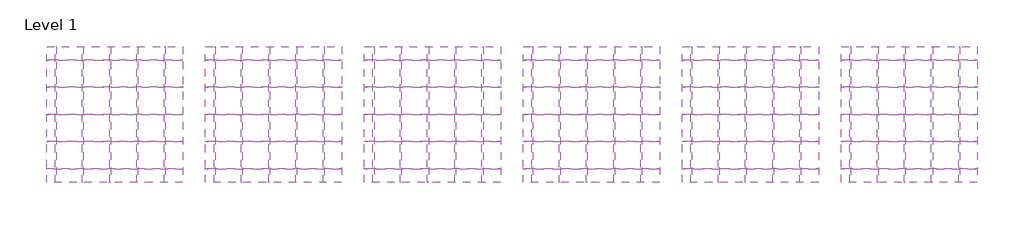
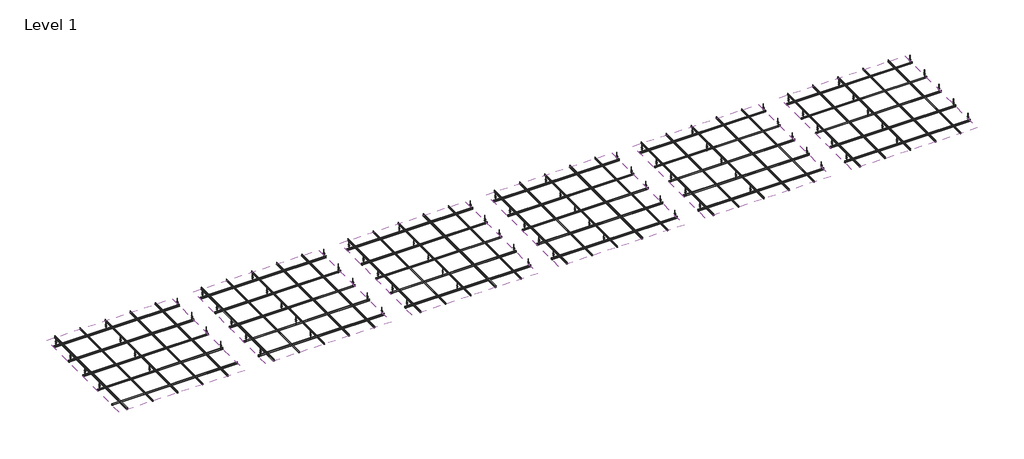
# One storey: 60 proxies, 6 coverings.
"""IFC4 building model written with IfcOpenShell, lengths in millimetres."""

import ifcopenshell
import ifcopenshell.guid

model = None  # the IFC model being written
_history = None  # IfcOwnerHistory: only IFC2X3 demands one
_inside = {}  # id of a spatial element -> (the spatial element, [elements in it])
_under = {}  # id of a project, library or spatial element -> (it, [spatial elements below it])
_declared = {}  # id of a project -> (the project, [libraries it declares])
_typed = {}  # id of a type object -> (the type object, [elements of that type])
_made_of = {}  # id of a material, layer set ... -> (it, [elements and type objects made of it])


def new_model(schema):
    """Start an empty IFC model of exactly this schema.

    Asked for "IFC4X3", IfcOpenShell would pick the latest addendum, in which some entities
    have other attributes; the version numbers below select the first issue.
    IFC2X3 requires an IfcOwnerHistory on every rooted entity: one is made here for all.
    """
    global model, _history
    if schema == "IFC4X3":
        model = ifcopenshell.file(schema_version=(4, 3, 0, 0))
    else:
        model = ifcopenshell.file(schema=schema)
    _inside.clear()
    _under.clear()
    _declared.clear()
    _typed.clear()
    _made_of.clear()
    _history = None
    if model.schema == "IFC2X3":
        org = make("IfcOrganization", Name="unknown")
        user = make(
            "IfcPersonAndOrganization",
            ThePerson=make("IfcPerson", FamilyName="unknown"),
            TheOrganization=org,
        )
        app = make(
            "IfcApplication",
            ApplicationDeveloper=org,
            Version="unknown",
            ApplicationFullName="unknown",
            ApplicationIdentifier="unknown",
        )
        _history = make(
            "IfcOwnerHistory",
            OwningUser=user,
            OwningApplication=app,
            ChangeAction="ADDED",
            CreationDate=0,
        )
    return model


def make(cls, **values):
    """One entity of the class cls with the attributes given. An attribute that is None is left unset."""
    return model.create_entity(
        cls, **{name: value for name, value in values.items() if value is not None}
    )


def rooted(cls, **values):
    """An entity with a GlobalId (a new one), such as an element, a storey or a relation."""
    return make(cls, GlobalId=ifcopenshell.guid.new(), OwnerHistory=_history, **values)


def si_unit(unit_type, name, prefix=None):
    """IfcSIUnit, for example si_unit("LENGTHUNIT", "METRE", prefix="MILLI")."""
    return make("IfcSIUnit", UnitType=unit_type, Prefix=prefix, Name=name)


def assignment(units):
    """IfcUnitAssignment: the units of a project."""
    return None if units is None else make("IfcUnitAssignment", Units=units)


def point(xyz):
    """IfcCartesianPoint."""
    return None if xyz is None else make("IfcCartesianPoint", Coordinates=xyz)


def direction(xyz):
    """IfcDirection."""
    return None if xyz is None else make("IfcDirection", DirectionRatios=xyz)


def frame(location, z_axis=None, x_axis=None):
    """IfcAxis2Placement3D, a coordinate frame: its origin and axes. An axis left out is left unset."""
    return make(
        "IfcAxis2Placement3D",
        Location=point(location),
        Axis=direction(z_axis),
        RefDirection=direction(x_axis),
    )


def frame_2d(location, x_axis=None):
    """IfcAxis2Placement2D, a coordinate frame in the plane: its origin and x axis."""
    return make(
        "IfcAxis2Placement2D", Location=point(location), RefDirection=direction(x_axis)
    )


def origin():
    """The frame at (0, 0, 0) with its axes left unset."""
    return frame((0.0, 0.0, 0.0))


def origin_with_axes():
    """The frame at (0, 0, 0) with the z axis (0, 0, 1) and the x axis (1, 0, 0) written out."""
    return frame((0.0, 0.0, 0.0), z_axis=(0.0, 0.0, 1.0), x_axis=(1.0, 0.0, 0.0))


def place(relative_to, where):
    """IfcLocalPlacement: puts the frame where relative to a parent placement (None: the world)."""
    return make(
        "IfcLocalPlacement", PlacementRelTo=relative_to, RelativePlacement=where
    )


def context(
    kind, dimensions, precision=None, world=None, true_north=None, identifier=None
):
    """IfcGeometricRepresentationContext, for example the 3D "Model" context."""
    return make(
        "IfcGeometricRepresentationContext",
        ContextIdentifier=identifier,
        ContextType=kind,
        CoordinateSpaceDimension=dimensions,
        Precision=precision,
        WorldCoordinateSystem=world,
        TrueNorth=true_north,
    )


def project(units=None, contexts=None):
    """IfcProject with its units and contexts."""
    return rooted(
        "IfcProject",
        Name="project",
        RepresentationContexts=contexts,
        UnitsInContext=assignment(units),
    )


def spatial(cls, under=None, at=None, **own):
    """A site, building, storey or space (cls), placed at a placement, below another one or the project."""
    s = rooted(cls, ObjectPlacement=at, **own)
    if under is not None:
        _under.setdefault(under.id(), (under, []))[1].append(s)
    return s


def polyline(points):
    """IfcPolyline through the points."""
    return make("IfcPolyline", Points=[point(p) for p in points])


def circle_curve(where, radius):
    """IfcCircle in the frame where."""
    return make("IfcCircle", Position=where, Radius=radius)


def trimmed(basis, trim1, trim2, sense, master):
    """IfcTrimmedCurve: the piece of a basis curve between two trims."""
    return make(
        "IfcTrimmedCurve",
        BasisCurve=basis,
        Trim1=trim1,
        Trim2=trim2,
        SenseAgreement=sense,
        MasterRepresentation=master,
    )


def segment(curve, same_sense, transition):
    """IfcCompositeCurveSegment."""
    return make(
        "IfcCompositeCurveSegment",
        Transition=transition,
        SameSense=same_sense,
        ParentCurve=curve,
    )


def composite_curve(segments, self_intersect=None):
    """IfcCompositeCurve: segments joined end to end."""
    return make("IfcCompositeCurve", Segments=segments, SelfIntersect=self_intersect)


def outline(outer, holes=None, kind="AREA"):
    """IfcArbitraryClosedProfileDef: a profile drawn as a closed curve; with holes, ...WithVoids."""
    if holes is None:
        return make("IfcArbitraryClosedProfileDef", ProfileType=kind, OuterCurve=outer)
    return make(
        "IfcArbitraryProfileDefWithVoids",
        ProfileType=kind,
        OuterCurve=outer,
        InnerCurves=holes,
    )


def extrude(swept, where, along, depth):
    """IfcExtrudedAreaSolid: the profile swept, set in the frame where, extruded along a direction by depth."""
    return make(
        "IfcExtrudedAreaSolid",
        SweptArea=swept,
        Position=where,
        ExtrudedDirection=direction(along),
        Depth=depth,
    )


def shape(context_of_items, identifier, shape_type, items):
    """IfcShapeRepresentation: the items that make up one representation, for example the "Body"."""
    return make(
        "IfcShapeRepresentation",
        ContextOfItems=context_of_items,
        RepresentationIdentifier=identifier,
        RepresentationType=shape_type,
        Items=items,
    )


def source(mapping_origin, context_of_items, identifier, shape_type, items):
    """IfcRepresentationMap: a shape defined once, which mapped items show again and again."""
    return make(
        "IfcRepresentationMap",
        MappingOrigin=mapping_origin,
        MappedRepresentation=shape(context_of_items, identifier, shape_type, items),
    )


def transform(
    local_origin,
    x_axis=None,
    y_axis=None,
    z_axis=None,
    scale=None,
    scale2=None,
    scale3=None,
    uniform=True,
):
    """IfcCartesianTransformationOperator3D, or its non-uniform kind. x_axis, y_axis, z_axis: its Axis1, 2, 3."""
    if uniform:
        return make(
            "IfcCartesianTransformationOperator3D",
            Axis1=direction(x_axis),
            Axis2=direction(y_axis),
            LocalOrigin=point(local_origin),
            Scale=scale,
            Axis3=direction(z_axis),
        )
    return make(
        "IfcCartesianTransformationOperator3DnonUniform",
        Axis1=direction(x_axis),
        Axis2=direction(y_axis),
        LocalOrigin=point(local_origin),
        Scale=scale,
        Axis3=direction(z_axis),
        Scale2=scale2,
        Scale3=scale3,
    )


def mapped(mapping_source, mapping_target):
    """IfcMappedItem: shows the shape of a source again, moved by a transform."""
    return make(
        "IfcMappedItem", MappingSource=mapping_source, MappingTarget=mapping_target
    )


def made_of(thing, what):
    """Note that an element or type object is made of a material, layer set ...; save() writes the relation."""
    if what is not None:
        _made_of.setdefault(what.id(), (what, []))[1].append(thing)
    return thing


def element(
    cls,
    number,
    at=None,
    inside=None,
    cuts=None,
    type_object=None,
    material=None,
    context=None,
    identifier="Body",
    shape_type=None,
    held_by="IfcProductDefinitionShape",
    body=None,
    shapes=None,
    **own,
):
    """One element of the class cls, such as IfcWall. Its Tag is "e" and its number.

    at: its placement. inside: the storey or other place that contains it. cuts: it is an
    opening in that element (IfcRelVoidsElement). A single representation is given by context,
    identifier, shape_type and body (its items); several are given by shapes. held_by: the class
    of the entity that holds the representations. save() writes the other relations.
    """
    e = rooted(cls, Tag="e%d" % number, ObjectPlacement=at, **own)
    if body is not None:
        shapes = [shape(context, identifier, shape_type, body)]
    if shapes is not None:
        e.Representation = make(held_by, Representations=shapes)
    if inside is not None:
        _inside.setdefault(inside.id(), (inside, []))[1].append(e)
    if cuts is not None:
        rooted(
            "IfcRelVoidsElement", RelatingBuildingElement=cuts, RelatedOpeningElement=e
        )
    if type_object is not None:
        _typed.setdefault(type_object.id(), (type_object, []))[1].append(e)
    return made_of(e, material)


def aggregate(whole, parts):
    """IfcRelAggregates: a whole, such as a stair, and the parts it consists of."""
    return rooted("IfcRelAggregates", RelatingObject=whole, RelatedObjects=parts)


def save(model, path):
    """Write the relations noted so far, then the file.

    IfcRelAggregates (storeys below a building ...), IfcRelContainedInSpatialStructure (elements
    in a storey), IfcRelDefinesByType, IfcRelAssociatesMaterial and IfcRelDeclares: one each for
    every whole, place, type object, material and project.
    """
    for whole, parts in _under.values():
        aggregate(whole, parts)
    for where, things in _inside.values():
        rooted(
            "IfcRelContainedInSpatialStructure",
            RelatedElements=things,
            RelatingStructure=where,
        )
    for kind, things in _typed.values():
        rooted("IfcRelDefinesByType", RelatedObjects=things, RelatingType=kind)
    for what, things in _made_of.values():
        rooted("IfcRelAssociatesMaterial", RelatedObjects=things, RelatingMaterial=what)
    for by, libraries in _declared.values():
        rooted("IfcRelDeclares", RelatingContext=by, RelatedDefinitions=libraries)
    model.write(path)


def estructura_techo_placo_quick_lock_550391a7(model_context):
    return source(origin(), model_context, "Body", "SweptSolid", [
        extrude(outline(polyline([(-12.0, 99.5), (-12.0, 109.5), (12.0, 129.5), (12.0, 128.0857864), (-11.0, 109.0857864), (-11.0, 99.9142136), (12.0, 80.9142136), (12.0, 79.5), (-12.0, 99.5)])), frame((2940.0, 0.0, 0.0), z_axis=(1.0, 0.0, 0.0), x_axis=(0.0, 1.0, 0.0)), (0.0, 0.0, 1.0), 20.0),
        extrude(outline(composite_curve([segment(trimmed(circle_curve(frame_2d((2950.0, 6.0)), 1.5), [point((2948.5, 6.0))], [point((2951.5, 6.0))], False, "CARTESIAN"), True, "CONTINUOUS"), segment(trimmed(circle_curve(frame_2d((2950.0, 6.0)), 1.5), [point((2951.5, 6.0))], [point((2948.5, 6.0))], False, "CARTESIAN"), True, "CONTINUOUS")], self_intersect=False)), frame((0.0, 0.0, 78.8860888), z_axis=(0.0, 0.0, 1.0), x_axis=(1.0, 0.0, 0.0)), (0.0, 0.0, 1.0), 130.1139112),
        extrude(outline(composite_curve([segment(trimmed(circle_curve(frame_2d((2950.0, -6.0)), 1.5), [point((2948.5, -6.0))], [point((2951.5, -6.0))], False, "CARTESIAN"), True, "CONTINUOUS"), segment(trimmed(circle_curve(frame_2d((2950.0, -6.0)), 1.5), [point((2951.5, -6.0))], [point((2948.5, -6.0))], False, "CARTESIAN"), True, "CONTINUOUS")], self_intersect=False)), origin_with_axes(), (0.0, 0.0, 1.0), 117.1833352),
        extrude(outline(polyline([(-12.0, 99.5), (-12.0, 109.5), (12.0, 129.5), (12.0, 128.0857864), (-11.0, 109.0857864), (-11.0, 99.9142136), (12.0, 80.9142136), (12.0, 79.5), (-12.0, 99.5)])), frame((1240.0, 0.0, 0.0), z_axis=(1.0, 0.0, 0.0), x_axis=(0.0, 1.0, 0.0)), (0.0, 0.0, 1.0), 20.0),
        extrude(outline(composite_curve([segment(trimmed(circle_curve(frame_2d((1250.0, 6.0)), 1.5), [point((1248.5, 6.0))], [point((1251.5, 6.0))], False, "CARTESIAN"), True, "CONTINUOUS"), segment(trimmed(circle_curve(frame_2d((1250.0, 6.0)), 1.5), [point((1251.5, 6.0))], [point((1248.5, 6.0))], False, "CARTESIAN"), True, "CONTINUOUS")], self_intersect=False)), frame((0.0, 0.0, 78.8860888), z_axis=(0.0, 0.0, 1.0), x_axis=(1.0, 0.0, 0.0)), (0.0, 0.0, 1.0), 130.1139112),
        extrude(outline(composite_curve([segment(trimmed(circle_curve(frame_2d((1250.0, -6.0)), 1.5), [point((1248.5, -6.0))], [point((1251.5, -6.0))], False, "CARTESIAN"), True, "CONTINUOUS"), segment(trimmed(circle_curve(frame_2d((1250.0, -6.0)), 1.5), [point((1251.5, -6.0))], [point((1248.5, -6.0))], False, "CARTESIAN"), True, "CONTINUOUS")], self_intersect=False)), origin_with_axes(), (0.0, 0.0, 1.0), 117.1833352),
        extrude(outline(polyline([(-12.0, 99.5), (-12.0, 109.5), (12.0, 129.5), (12.0, 128.0857864), (-11.0, 109.0857864), (-11.0, 99.9142136), (12.0, 80.9142136), (12.0, 79.5), (-12.0, 99.5)])), frame((40.0, 0.0, 0.0), z_axis=(1.0, 0.0, 0.0), x_axis=(0.0, 1.0, 0.0)), (0.0, 0.0, 1.0), 20.0),
        extrude(outline(composite_curve([segment(trimmed(circle_curve(frame_2d((50.0, 6.0)), 1.5), [point((48.5, 6.0))], [point((51.5, 6.0))], False, "CARTESIAN"), True, "CONTINUOUS"), segment(trimmed(circle_curve(frame_2d((50.0, 6.0)), 1.5), [point((51.5, 6.0))], [point((48.5, 6.0))], False, "CARTESIAN"), True, "CONTINUOUS")], self_intersect=False)), frame((0.0, 0.0, 78.8860888), z_axis=(0.0, 0.0, 1.0), x_axis=(1.0, 0.0, 0.0)), (0.0, 0.0, 1.0), 130.1139112),
        extrude(outline(composite_curve([segment(trimmed(circle_curve(frame_2d((50.0, -6.0)), 1.5), [point((48.5, -6.0))], [point((51.5, -6.0))], False, "CARTESIAN"), True, "CONTINUOUS"), segment(trimmed(circle_curve(frame_2d((50.0, -6.0)), 1.5), [point((51.5, -6.0))], [point((48.5, -6.0))], False, "CARTESIAN"), True, "CONTINUOUS")], self_intersect=False)), origin_with_axes(), (0.0, 0.0, 1.0), 117.1833352),
        extrude(outline(polyline([(-12.0, -0.8), (-12.0, 0.0), (-0.4, 0.0), (-0.4, 29.2), (-2.5, 29.2), (-2.5, 37.2), (2.5, 37.2), (2.5, 29.2), (0.4, 29.2), (0.4, 0.0), (12.0, 0.0), (12.0, -0.8), (-12.0, -0.8)]), holes=[polyline([(-1.7, 36.4), (-1.7, 30.0), (1.7, 30.0), (1.7, 36.4), (-1.7, 36.4)])]), frame((0.0, 0.0, 0.0), z_axis=(1.0, 0.0, 0.0), x_axis=(0.0, 1.0, 0.0)), (0.0, 0.0, 1.0), 3000.0),
    ])


def estructura_techo_placo_quick_lock_perfil_secundario_4d9db738(model_context):
    return source(origin(), model_context, "Body", "SweptSolid", [
        extrude(outline(polyline([(-12.0, -0.8), (-12.0, 0.0), (-0.4, 0.0), (-0.4, 29.2), (-2.5, 29.2), (-2.5, 37.2), (2.5, 37.2), (2.5, 29.2), (0.4, 29.2), (0.4, 0.0), (12.0, 0.0), (12.0, -0.8), (-12.0, -0.8)]), holes=[polyline([(-1.7, 36.4), (-1.7, 30.0), (1.7, 30.0), (1.7, 36.4), (-1.7, 36.4)])]), frame((0.0, 0.0, 0.0), z_axis=(1.0, 0.0, 0.0), x_axis=(0.0, 1.0, 0.0)), (0.0, 0.0, 1.0), 3000.0),
    ])


model = new_model("IFC4")

# Units and contexts
model_context = context("Model", 3, world=origin())
ifc_project = project(units=[si_unit("LENGTHUNIT", "METRE", prefix="MILLI")], contexts=[model_context])

# Site, building, storey
site = spatial("IfcSite", under=ifc_project)
building = spatial("IfcBuilding", under=site)
storey = spatial("IfcBuildingStorey", under=building, Name="Level 1", Elevation=0.0)

# Proxies
placement = place(None, origin())
estructura_techo_placo_quick_lock_shape = estructura_techo_placo_quick_lock_550391a7(model_context)
element("IfcBuildingElementProxy", 1, Name="Estructura-Techo_Placo_Quick-Lock : Perfil Primario", ObjectType="Estructura-Techo_Placo_Quick-Lock : Perfil Primario", at=placement, inside=storey, context=model_context, shape_type="MappedRepresentation", body=[
    mapped(estructura_techo_placo_quick_lock_shape, transform((-8529.2333262, 540.2900307, 2600.0), x_axis=(1.0, 0.0, 0.0), y_axis=(0.0, 1.0, 0.0), z_axis=(0.0, 0.0, 1.0))),
])
element("IfcBuildingElementProxy", 2, Name="Estructura-Techo_Placo_Quick-Lock : Perfil Primario", ObjectType="Estructura-Techo_Placo_Quick-Lock : Perfil Primario", at=placement, inside=storey, context=model_context, shape_type="MappedRepresentation", body=[
    mapped(estructura_techo_placo_quick_lock_shape, transform((-8529.2333262, -59.7099693, 2600.0), x_axis=(1.0, 0.0, 0.0), y_axis=(0.0, 1.0, 0.0), z_axis=(0.0, 0.0, 1.0))),
])
element("IfcBuildingElementProxy", 3, Name="Estructura-Techo_Placo_Quick-Lock : Perfil Primario", ObjectType="Estructura-Techo_Placo_Quick-Lock : Perfil Primario", at=placement, inside=storey, context=model_context, shape_type="MappedRepresentation", body=[
    mapped(estructura_techo_placo_quick_lock_shape, transform((-8529.2333262, 1140.2900307, 2600.0), x_axis=(1.0, 0.0, 0.0), y_axis=(0.0, 1.0, 0.0), z_axis=(0.0, 0.0, 1.0))),
])
element("IfcBuildingElementProxy", 4, Name="Estructura-Techo_Placo_Quick-Lock : Perfil Primario", ObjectType="Estructura-Techo_Placo_Quick-Lock : Perfil Primario", at=placement, inside=storey, context=model_context, shape_type="MappedRepresentation", body=[
    mapped(estructura_techo_placo_quick_lock_shape, transform((-8529.2333262, 1740.2900307, 2600.0), x_axis=(1.0, 0.0, 0.0), y_axis=(0.0, 1.0, 0.0), z_axis=(0.0, 0.0, 1.0))),
])
element("IfcBuildingElementProxy", 5, Name="Estructura-Techo_Placo_Quick-Lock : Perfil Primario", ObjectType="Estructura-Techo_Placo_Quick-Lock : Perfil Primario", at=placement, inside=storey, context=model_context, shape_type="MappedRepresentation", body=[
    mapped(estructura_techo_placo_quick_lock_shape, transform((-5029.2333262, 540.2900307, 2600.0), x_axis=(1.0, 0.0, 0.0), y_axis=(0.0, 1.0, 0.0), z_axis=(0.0, 0.0, 1.0))),
])
element("IfcBuildingElementProxy", 6, Name="Estructura-Techo_Placo_Quick-Lock : Perfil Primario", ObjectType="Estructura-Techo_Placo_Quick-Lock : Perfil Primario", at=placement, inside=storey, context=model_context, shape_type="MappedRepresentation", body=[
    mapped(estructura_techo_placo_quick_lock_shape, transform((-5029.2333262, -59.7099693, 2600.0), x_axis=(1.0, 0.0, 0.0), y_axis=(0.0, 1.0, 0.0), z_axis=(0.0, 0.0, 1.0))),
])
element("IfcBuildingElementProxy", 7, Name="Estructura-Techo_Placo_Quick-Lock : Perfil Primario", ObjectType="Estructura-Techo_Placo_Quick-Lock : Perfil Primario", at=placement, inside=storey, context=model_context, shape_type="MappedRepresentation", body=[
    mapped(estructura_techo_placo_quick_lock_shape, transform((-5029.2333262, -659.7099693, 2600.0), x_axis=(1.0, 0.0, 0.0), y_axis=(0.0, 1.0, 0.0), z_axis=(0.0, 0.0, 1.0))),
])
element("IfcBuildingElementProxy", 8, Name="Estructura-Techo_Placo_Quick-Lock : Perfil Primario", ObjectType="Estructura-Techo_Placo_Quick-Lock : Perfil Primario", at=placement, inside=storey, context=model_context, shape_type="MappedRepresentation", body=[
    mapped(estructura_techo_placo_quick_lock_shape, transform((-5029.2333262, 1140.2900307, 2600.0), x_axis=(1.0, 0.0, 0.0), y_axis=(0.0, 1.0, 0.0), z_axis=(0.0, 0.0, 1.0))),
])
element("IfcBuildingElementProxy", 9, Name="Estructura-Techo_Placo_Quick-Lock : Perfil Primario", ObjectType="Estructura-Techo_Placo_Quick-Lock : Perfil Primario", at=placement, inside=storey, context=model_context, shape_type="MappedRepresentation", body=[
    mapped(estructura_techo_placo_quick_lock_shape, transform((-5029.2333262, 1740.2900307, 2600.0), x_axis=(1.0, 0.0, 0.0), y_axis=(0.0, 1.0, 0.0), z_axis=(0.0, 0.0, 1.0))),
])
element("IfcBuildingElementProxy", 10, Name="Estructura-Techo_Placo_Quick-Lock : Perfil Primario", ObjectType="Estructura-Techo_Placo_Quick-Lock : Perfil Primario", at=placement, inside=storey, context=model_context, shape_type="MappedRepresentation", body=[
    mapped(estructura_techo_placo_quick_lock_shape, transform((-1529.2333262, 540.2900307, 2600.0), x_axis=(1.0, 0.0, 0.0), y_axis=(0.0, 1.0, 0.0), z_axis=(0.0, 0.0, 1.0))),
])
element("IfcBuildingElementProxy", 11, Name="Estructura-Techo_Placo_Quick-Lock : Perfil Primario", ObjectType="Estructura-Techo_Placo_Quick-Lock : Perfil Primario", at=placement, inside=storey, context=model_context, shape_type="MappedRepresentation", body=[
    mapped(estructura_techo_placo_quick_lock_shape, transform((-1529.2333262, -59.7099693, 2600.0), x_axis=(1.0, 0.0, 0.0), y_axis=(0.0, 1.0, 0.0), z_axis=(0.0, 0.0, 1.0))),
])
element("IfcBuildingElementProxy", 12, Name="Estructura-Techo_Placo_Quick-Lock : Perfil Primario", ObjectType="Estructura-Techo_Placo_Quick-Lock : Perfil Primario", at=placement, inside=storey, context=model_context, shape_type="MappedRepresentation", body=[
    mapped(estructura_techo_placo_quick_lock_shape, transform((-1529.2333262, -659.7099693, 2600.0), x_axis=(1.0, 0.0, 0.0), y_axis=(0.0, 1.0, 0.0), z_axis=(0.0, 0.0, 1.0))),
])
element("IfcBuildingElementProxy", 13, Name="Estructura-Techo_Placo_Quick-Lock : Perfil Primario", ObjectType="Estructura-Techo_Placo_Quick-Lock : Perfil Primario", at=placement, inside=storey, context=model_context, shape_type="MappedRepresentation", body=[
    mapped(estructura_techo_placo_quick_lock_shape, transform((-1529.2333262, 1140.2900307, 2600.0), x_axis=(1.0, 0.0, 0.0), y_axis=(0.0, 1.0, 0.0), z_axis=(0.0, 0.0, 1.0))),
])
element("IfcBuildingElementProxy", 14, Name="Estructura-Techo_Placo_Quick-Lock : Perfil Primario", ObjectType="Estructura-Techo_Placo_Quick-Lock : Perfil Primario", at=placement, inside=storey, context=model_context, shape_type="MappedRepresentation", body=[
    mapped(estructura_techo_placo_quick_lock_shape, transform((-1529.2333262, 1740.2900307, 2600.0), x_axis=(1.0, 0.0, 0.0), y_axis=(0.0, 1.0, 0.0), z_axis=(0.0, 0.0, 1.0))),
])
element("IfcBuildingElementProxy", 15, Name="Estructura-Techo_Placo_Quick-Lock : Perfil Primario", ObjectType="Estructura-Techo_Placo_Quick-Lock : Perfil Primario", at=placement, inside=storey, context=model_context, shape_type="MappedRepresentation", body=[
    mapped(estructura_techo_placo_quick_lock_shape, transform((1970.7666738, 540.2900307, 2600.0), x_axis=(1.0, 0.0, 0.0), y_axis=(0.0, 1.0, 0.0), z_axis=(0.0, 0.0, 1.0))),
])
element("IfcBuildingElementProxy", 16, Name="Estructura-Techo_Placo_Quick-Lock : Perfil Primario", ObjectType="Estructura-Techo_Placo_Quick-Lock : Perfil Primario", at=placement, inside=storey, context=model_context, shape_type="MappedRepresentation", body=[
    mapped(estructura_techo_placo_quick_lock_shape, transform((1970.7666738, -59.7099693, 2600.0), x_axis=(1.0, 0.0, 0.0), y_axis=(0.0, 1.0, 0.0), z_axis=(0.0, 0.0, 1.0))),
])
element("IfcBuildingElementProxy", 17, Name="Estructura-Techo_Placo_Quick-Lock : Perfil Primario", ObjectType="Estructura-Techo_Placo_Quick-Lock : Perfil Primario", at=placement, inside=storey, context=model_context, shape_type="MappedRepresentation", body=[
    mapped(estructura_techo_placo_quick_lock_shape, transform((1970.7666738, -659.7099693, 2600.0), x_axis=(1.0, 0.0, 0.0), y_axis=(0.0, 1.0, 0.0), z_axis=(0.0, 0.0, 1.0))),
])
element("IfcBuildingElementProxy", 18, Name="Estructura-Techo_Placo_Quick-Lock : Perfil Primario", ObjectType="Estructura-Techo_Placo_Quick-Lock : Perfil Primario", at=placement, inside=storey, context=model_context, shape_type="MappedRepresentation", body=[
    mapped(estructura_techo_placo_quick_lock_shape, transform((1970.7666738, 1140.2900307, 2600.0), x_axis=(1.0, 0.0, 0.0), y_axis=(0.0, 1.0, 0.0), z_axis=(0.0, 0.0, 1.0))),
])
element("IfcBuildingElementProxy", 19, Name="Estructura-Techo_Placo_Quick-Lock : Perfil Primario", ObjectType="Estructura-Techo_Placo_Quick-Lock : Perfil Primario", at=placement, inside=storey, context=model_context, shape_type="MappedRepresentation", body=[
    mapped(estructura_techo_placo_quick_lock_shape, transform((1970.7666738, 1740.2900307, 2600.0), x_axis=(1.0, 0.0, 0.0), y_axis=(0.0, 1.0, 0.0), z_axis=(0.0, 0.0, 1.0))),
])
element("IfcBuildingElementProxy", 20, Name="Estructura-Techo_Placo_Quick-Lock : Perfil Primario", ObjectType="Estructura-Techo_Placo_Quick-Lock : Perfil Primario", at=placement, inside=storey, context=model_context, shape_type="MappedRepresentation", body=[
    mapped(estructura_techo_placo_quick_lock_shape, transform((5470.7666738, 540.2900307, 2600.0), x_axis=(1.0, 0.0, 0.0), y_axis=(0.0, 1.0, 0.0), z_axis=(0.0, 0.0, 1.0))),
])
element("IfcBuildingElementProxy", 21, Name="Estructura-Techo_Placo_Quick-Lock : Perfil Primario", ObjectType="Estructura-Techo_Placo_Quick-Lock : Perfil Primario", at=placement, inside=storey, context=model_context, shape_type="MappedRepresentation", body=[
    mapped(estructura_techo_placo_quick_lock_shape, transform((5470.7666738, -59.7099693, 2600.0), x_axis=(1.0, 0.0, 0.0), y_axis=(0.0, 1.0, 0.0), z_axis=(0.0, 0.0, 1.0))),
])
element("IfcBuildingElementProxy", 22, Name="Estructura-Techo_Placo_Quick-Lock : Perfil Primario", ObjectType="Estructura-Techo_Placo_Quick-Lock : Perfil Primario", at=placement, inside=storey, context=model_context, shape_type="MappedRepresentation", body=[
    mapped(estructura_techo_placo_quick_lock_shape, transform((5470.7666738, -659.7099693, 2600.0), x_axis=(1.0, 0.0, 0.0), y_axis=(0.0, 1.0, 0.0), z_axis=(0.0, 0.0, 1.0))),
])
element("IfcBuildingElementProxy", 23, Name="Estructura-Techo_Placo_Quick-Lock : Perfil Primario", ObjectType="Estructura-Techo_Placo_Quick-Lock : Perfil Primario", at=placement, inside=storey, context=model_context, shape_type="MappedRepresentation", body=[
    mapped(estructura_techo_placo_quick_lock_shape, transform((5470.7666738, 1140.2900307, 2600.0), x_axis=(1.0, 0.0, 0.0), y_axis=(0.0, 1.0, 0.0), z_axis=(0.0, 0.0, 1.0))),
])
element("IfcBuildingElementProxy", 24, Name="Estructura-Techo_Placo_Quick-Lock : Perfil Primario", ObjectType="Estructura-Techo_Placo_Quick-Lock : Perfil Primario", at=placement, inside=storey, context=model_context, shape_type="MappedRepresentation", body=[
    mapped(estructura_techo_placo_quick_lock_shape, transform((5470.7666738, 1740.2900307, 2600.0), x_axis=(1.0, 0.0, 0.0), y_axis=(0.0, 1.0, 0.0), z_axis=(0.0, 0.0, 1.0))),
])
element("IfcBuildingElementProxy", 25, Name="Estructura-Techo_Placo_Quick-Lock : Perfil Primario", ObjectType="Estructura-Techo_Placo_Quick-Lock : Perfil Primario", at=placement, inside=storey, context=model_context, shape_type="MappedRepresentation", body=[
    mapped(estructura_techo_placo_quick_lock_shape, transform((8970.7666738, 540.2900307, 2600.0), x_axis=(1.0, 0.0, 0.0), y_axis=(0.0, 1.0, 0.0), z_axis=(0.0, 0.0, 1.0))),
])
element("IfcBuildingElementProxy", 26, Name="Estructura-Techo_Placo_Quick-Lock : Perfil Primario", ObjectType="Estructura-Techo_Placo_Quick-Lock : Perfil Primario", at=placement, inside=storey, context=model_context, shape_type="MappedRepresentation", body=[
    mapped(estructura_techo_placo_quick_lock_shape, transform((8970.7666738, -59.7099693, 2600.0), x_axis=(1.0, 0.0, 0.0), y_axis=(0.0, 1.0, 0.0), z_axis=(0.0, 0.0, 1.0))),
])
element("IfcBuildingElementProxy", 27, Name="Estructura-Techo_Placo_Quick-Lock : Perfil Primario", ObjectType="Estructura-Techo_Placo_Quick-Lock : Perfil Primario", at=placement, inside=storey, context=model_context, shape_type="MappedRepresentation", body=[
    mapped(estructura_techo_placo_quick_lock_shape, transform((8970.7666738, -659.7099693, 2600.0), x_axis=(1.0, 0.0, 0.0), y_axis=(0.0, 1.0, 0.0), z_axis=(0.0, 0.0, 1.0))),
])
element("IfcBuildingElementProxy", 28, Name="Estructura-Techo_Placo_Quick-Lock : Perfil Primario", ObjectType="Estructura-Techo_Placo_Quick-Lock : Perfil Primario", at=placement, inside=storey, context=model_context, shape_type="MappedRepresentation", body=[
    mapped(estructura_techo_placo_quick_lock_shape, transform((8970.7666738, 1140.2900307, 2600.0), x_axis=(1.0, 0.0, 0.0), y_axis=(0.0, 1.0, 0.0), z_axis=(0.0, 0.0, 1.0))),
])
element("IfcBuildingElementProxy", 29, Name="Estructura-Techo_Placo_Quick-Lock : Perfil Primario", ObjectType="Estructura-Techo_Placo_Quick-Lock : Perfil Primario", at=placement, inside=storey, context=model_context, shape_type="MappedRepresentation", body=[
    mapped(estructura_techo_placo_quick_lock_shape, transform((8970.7666738, 1740.2900307, 2600.0), x_axis=(1.0, 0.0, 0.0), y_axis=(0.0, 1.0, 0.0), z_axis=(0.0, 0.0, 1.0))),
])
estructura_techo_placo_quick_lock_perfil_secundario_shape = estructura_techo_placo_quick_lock_perfil_secundario_4d9db738(model_context)
element("IfcBuildingElementProxy", 30, Name="Estructura-Techo_Placo_Quick-Lock : Perfil Secundario", ObjectType="Estructura-Techo_Placo_Quick-Lock : Perfil Secundario", at=placement, inside=storey, context=model_context, shape_type="MappedRepresentation", body=[
    mapped(estructura_techo_placo_quick_lock_perfil_secundario_shape, transform((-7129.2333262, -959.7099693, 2600.0), x_axis=(0.0, 1.0, 0.0), y_axis=(-1.0, 0.0, 0.0), z_axis=(0.0, 0.0, 1.0))),
])
element("IfcBuildingElementProxy", 31, Name="Estructura-Techo_Placo_Quick-Lock : Perfil Secundario", ObjectType="Estructura-Techo_Placo_Quick-Lock : Perfil Secundario", at=placement, inside=storey, context=model_context, shape_type="MappedRepresentation", body=[
    mapped(estructura_techo_placo_quick_lock_perfil_secundario_shape, transform((-6529.2333262, -959.7099693, 2600.0), x_axis=(0.0, 1.0, 0.0), y_axis=(-1.0, 0.0, 0.0), z_axis=(0.0, 0.0, 1.0))),
])
element("IfcBuildingElementProxy", 32, Name="Estructura-Techo_Placo_Quick-Lock : Perfil Secundario", ObjectType="Estructura-Techo_Placo_Quick-Lock : Perfil Secundario", at=placement, inside=storey, context=model_context, shape_type="MappedRepresentation", body=[
    mapped(estructura_techo_placo_quick_lock_perfil_secundario_shape, transform((-5929.2333262, -959.7099693, 2600.0), x_axis=(0.0, 1.0, 0.0), y_axis=(-1.0, 0.0, 0.0), z_axis=(0.0, 0.0, 1.0))),
])
element("IfcBuildingElementProxy", 33, Name="Estructura-Techo_Placo_Quick-Lock : Perfil Secundario", ObjectType="Estructura-Techo_Placo_Quick-Lock : Perfil Secundario", at=placement, inside=storey, context=model_context, shape_type="MappedRepresentation", body=[
    mapped(estructura_techo_placo_quick_lock_perfil_secundario_shape, transform((-4829.2333262, -959.7099693, 2600.0), x_axis=(0.0, 1.0, 0.0), y_axis=(-1.0, 0.0, 0.0), z_axis=(0.0, 0.0, 1.0))),
])
element("IfcBuildingElementProxy", 34, Name="Estructura-Techo_Placo_Quick-Lock : Perfil Secundario", ObjectType="Estructura-Techo_Placo_Quick-Lock : Perfil Secundario", at=placement, inside=storey, context=model_context, shape_type="MappedRepresentation", body=[
    mapped(estructura_techo_placo_quick_lock_perfil_secundario_shape, transform((-4229.2333262, -959.7099693, 2600.0), x_axis=(0.0, 1.0, 0.0), y_axis=(-1.0, 0.0, 0.0), z_axis=(0.0, 0.0, 1.0))),
])
element("IfcBuildingElementProxy", 35, Name="Estructura-Techo_Placo_Quick-Lock : Perfil Secundario", ObjectType="Estructura-Techo_Placo_Quick-Lock : Perfil Secundario", at=placement, inside=storey, context=model_context, shape_type="MappedRepresentation", body=[
    mapped(estructura_techo_placo_quick_lock_perfil_secundario_shape, transform((-3629.2333262, -959.7099693, 2600.0), x_axis=(0.0, 1.0, 0.0), y_axis=(-1.0, 0.0, 0.0), z_axis=(0.0, 0.0, 1.0))),
])
element("IfcBuildingElementProxy", 36, Name="Estructura-Techo_Placo_Quick-Lock : Perfil Secundario", ObjectType="Estructura-Techo_Placo_Quick-Lock : Perfil Secundario", at=placement, inside=storey, context=model_context, shape_type="MappedRepresentation", body=[
    mapped(estructura_techo_placo_quick_lock_perfil_secundario_shape, transform((-3029.2333262, -959.7099693, 2600.0), x_axis=(0.0, 1.0, 0.0), y_axis=(-1.0, 0.0, 0.0), z_axis=(0.0, 0.0, 1.0))),
])
element("IfcBuildingElementProxy", 37, Name="Estructura-Techo_Placo_Quick-Lock : Perfil Secundario", ObjectType="Estructura-Techo_Placo_Quick-Lock : Perfil Secundario", at=placement, inside=storey, context=model_context, shape_type="MappedRepresentation", body=[
    mapped(estructura_techo_placo_quick_lock_perfil_secundario_shape, transform((-2429.2333262, -959.7099693, 2600.0), x_axis=(0.0, 1.0, 0.0), y_axis=(-1.0, 0.0, 0.0), z_axis=(0.0, 0.0, 1.0))),
])
element("IfcBuildingElementProxy", 38, Name="Estructura-Techo_Placo_Quick-Lock : Perfil Secundario", ObjectType="Estructura-Techo_Placo_Quick-Lock : Perfil Secundario", at=placement, inside=storey, context=model_context, shape_type="MappedRepresentation", body=[
    mapped(estructura_techo_placo_quick_lock_perfil_secundario_shape, transform((-1329.2333262, -959.7099693, 2600.0), x_axis=(0.0, 1.0, 0.0), y_axis=(-1.0, 0.0, 0.0), z_axis=(0.0, 0.0, 1.0))),
])
element("IfcBuildingElementProxy", 39, Name="Estructura-Techo_Placo_Quick-Lock : Perfil Secundario", ObjectType="Estructura-Techo_Placo_Quick-Lock : Perfil Secundario", at=placement, inside=storey, context=model_context, shape_type="MappedRepresentation", body=[
    mapped(estructura_techo_placo_quick_lock_perfil_secundario_shape, transform((-729.2333262, -959.7099693, 2600.0), x_axis=(0.0, 1.0, 0.0), y_axis=(-1.0, 0.0, 0.0), z_axis=(0.0, 0.0, 1.0))),
])
element("IfcBuildingElementProxy", 40, Name="Estructura-Techo_Placo_Quick-Lock : Perfil Secundario", ObjectType="Estructura-Techo_Placo_Quick-Lock : Perfil Secundario", at=placement, inside=storey, context=model_context, shape_type="MappedRepresentation", body=[
    mapped(estructura_techo_placo_quick_lock_perfil_secundario_shape, transform((-129.2333262, -959.7099693, 2600.0), x_axis=(0.0, 1.0, 0.0), y_axis=(-1.0, 0.0, 0.0), z_axis=(0.0, 0.0, 1.0))),
])
element("IfcBuildingElementProxy", 41, Name="Estructura-Techo_Placo_Quick-Lock : Perfil Secundario", ObjectType="Estructura-Techo_Placo_Quick-Lock : Perfil Secundario", at=placement, inside=storey, context=model_context, shape_type="MappedRepresentation", body=[
    mapped(estructura_techo_placo_quick_lock_perfil_secundario_shape, transform((470.7666738, -959.7099693, 2600.0), x_axis=(0.0, 1.0, 0.0), y_axis=(-1.0, 0.0, 0.0), z_axis=(0.0, 0.0, 1.0))),
])
element("IfcBuildingElementProxy", 42, Name="Estructura-Techo_Placo_Quick-Lock : Perfil Secundario", ObjectType="Estructura-Techo_Placo_Quick-Lock : Perfil Secundario", at=placement, inside=storey, context=model_context, shape_type="MappedRepresentation", body=[
    mapped(estructura_techo_placo_quick_lock_perfil_secundario_shape, transform((1070.7666738, -959.7099693, 2600.0), x_axis=(0.0, 1.0, 0.0), y_axis=(-1.0, 0.0, 0.0), z_axis=(0.0, 0.0, 1.0))),
])
element("IfcBuildingElementProxy", 43, Name="Estructura-Techo_Placo_Quick-Lock : Perfil Secundario", ObjectType="Estructura-Techo_Placo_Quick-Lock : Perfil Secundario", at=placement, inside=storey, context=model_context, shape_type="MappedRepresentation", body=[
    mapped(estructura_techo_placo_quick_lock_perfil_secundario_shape, transform((2170.7666738, -959.7099693, 2600.0), x_axis=(0.0, 1.0, 0.0), y_axis=(-1.0, 0.0, 0.0), z_axis=(0.0, 0.0, 1.0))),
])
element("IfcBuildingElementProxy", 44, Name="Estructura-Techo_Placo_Quick-Lock : Perfil Secundario", ObjectType="Estructura-Techo_Placo_Quick-Lock : Perfil Secundario", at=placement, inside=storey, context=model_context, shape_type="MappedRepresentation", body=[
    mapped(estructura_techo_placo_quick_lock_perfil_secundario_shape, transform((2770.7666738, -959.7099693, 2600.0), x_axis=(0.0, 1.0, 0.0), y_axis=(-1.0, 0.0, 0.0), z_axis=(0.0, 0.0, 1.0))),
])
element("IfcBuildingElementProxy", 45, Name="Estructura-Techo_Placo_Quick-Lock : Perfil Secundario", ObjectType="Estructura-Techo_Placo_Quick-Lock : Perfil Secundario", at=placement, inside=storey, context=model_context, shape_type="MappedRepresentation", body=[
    mapped(estructura_techo_placo_quick_lock_perfil_secundario_shape, transform((3370.7666738, -959.7099693, 2600.0), x_axis=(0.0, 1.0, 0.0), y_axis=(-1.0, 0.0, 0.0), z_axis=(0.0, 0.0, 1.0))),
])
element("IfcBuildingElementProxy", 46, Name="Estructura-Techo_Placo_Quick-Lock : Perfil Secundario", ObjectType="Estructura-Techo_Placo_Quick-Lock : Perfil Secundario", at=placement, inside=storey, context=model_context, shape_type="MappedRepresentation", body=[
    mapped(estructura_techo_placo_quick_lock_perfil_secundario_shape, transform((3970.7666738, -959.7099693, 2600.0), x_axis=(0.0, 1.0, 0.0), y_axis=(-1.0, 0.0, 0.0), z_axis=(0.0, 0.0, 1.0))),
])
element("IfcBuildingElementProxy", 47, Name="Estructura-Techo_Placo_Quick-Lock : Perfil Secundario", ObjectType="Estructura-Techo_Placo_Quick-Lock : Perfil Secundario", at=placement, inside=storey, context=model_context, shape_type="MappedRepresentation", body=[
    mapped(estructura_techo_placo_quick_lock_perfil_secundario_shape, transform((4570.7666738, -959.7099693, 2600.0), x_axis=(0.0, 1.0, 0.0), y_axis=(-1.0, 0.0, 0.0), z_axis=(0.0, 0.0, 1.0))),
])
element("IfcBuildingElementProxy", 48, Name="Estructura-Techo_Placo_Quick-Lock : Perfil Secundario", ObjectType="Estructura-Techo_Placo_Quick-Lock : Perfil Secundario", at=placement, inside=storey, context=model_context, shape_type="MappedRepresentation", body=[
    mapped(estructura_techo_placo_quick_lock_perfil_secundario_shape, transform((5670.7666738, -959.7099693, 2600.0), x_axis=(0.0, 1.0, 0.0), y_axis=(-1.0, 0.0, 0.0), z_axis=(0.0, 0.0, 1.0))),
])
element("IfcBuildingElementProxy", 49, Name="Estructura-Techo_Placo_Quick-Lock : Perfil Secundario", ObjectType="Estructura-Techo_Placo_Quick-Lock : Perfil Secundario", at=placement, inside=storey, context=model_context, shape_type="MappedRepresentation", body=[
    mapped(estructura_techo_placo_quick_lock_perfil_secundario_shape, transform((6270.7666738, -959.7099693, 2600.0), x_axis=(0.0, 1.0, 0.0), y_axis=(-1.0, 0.0, 0.0), z_axis=(0.0, 0.0, 1.0))),
])
element("IfcBuildingElementProxy", 50, Name="Estructura-Techo_Placo_Quick-Lock : Perfil Secundario", ObjectType="Estructura-Techo_Placo_Quick-Lock : Perfil Secundario", at=placement, inside=storey, context=model_context, shape_type="MappedRepresentation", body=[
    mapped(estructura_techo_placo_quick_lock_perfil_secundario_shape, transform((6870.7666738, -959.7099693, 2600.0), x_axis=(0.0, 1.0, 0.0), y_axis=(-1.0, 0.0, 0.0), z_axis=(0.0, 0.0, 1.0))),
])
element("IfcBuildingElementProxy", 51, Name="Estructura-Techo_Placo_Quick-Lock : Perfil Secundario", ObjectType="Estructura-Techo_Placo_Quick-Lock : Perfil Secundario", at=placement, inside=storey, context=model_context, shape_type="MappedRepresentation", body=[
    mapped(estructura_techo_placo_quick_lock_perfil_secundario_shape, transform((7470.7666738, -959.7099693, 2600.0), x_axis=(0.0, 1.0, 0.0), y_axis=(-1.0, 0.0, 0.0), z_axis=(0.0, 0.0, 1.0))),
])
element("IfcBuildingElementProxy", 52, Name="Estructura-Techo_Placo_Quick-Lock : Perfil Secundario", ObjectType="Estructura-Techo_Placo_Quick-Lock : Perfil Secundario", at=placement, inside=storey, context=model_context, shape_type="MappedRepresentation", body=[
    mapped(estructura_techo_placo_quick_lock_perfil_secundario_shape, transform((8070.7666738, -959.7099693, 2600.0), x_axis=(0.0, 1.0, 0.0), y_axis=(-1.0, 0.0, 0.0), z_axis=(0.0, 0.0, 1.0))),
])
element("IfcBuildingElementProxy", 53, Name="Estructura-Techo_Placo_Quick-Lock : Perfil Secundario", ObjectType="Estructura-Techo_Placo_Quick-Lock : Perfil Secundario", at=placement, inside=storey, context=model_context, shape_type="MappedRepresentation", body=[
    mapped(estructura_techo_placo_quick_lock_perfil_secundario_shape, transform((9170.7666738, -959.7099693, 2600.0), x_axis=(0.0, 1.0, 0.0), y_axis=(-1.0, 0.0, 0.0), z_axis=(0.0, 0.0, 1.0))),
])
element("IfcBuildingElementProxy", 54, Name="Estructura-Techo_Placo_Quick-Lock : Perfil Secundario", ObjectType="Estructura-Techo_Placo_Quick-Lock : Perfil Secundario", at=placement, inside=storey, context=model_context, shape_type="MappedRepresentation", body=[
    mapped(estructura_techo_placo_quick_lock_perfil_secundario_shape, transform((9770.7666738, -959.7099693, 2600.0), x_axis=(0.0, 1.0, 0.0), y_axis=(-1.0, 0.0, 0.0), z_axis=(0.0, 0.0, 1.0))),
])
element("IfcBuildingElementProxy", 55, Name="Estructura-Techo_Placo_Quick-Lock : Perfil Secundario", ObjectType="Estructura-Techo_Placo_Quick-Lock : Perfil Secundario", at=placement, inside=storey, context=model_context, shape_type="MappedRepresentation", body=[
    mapped(estructura_techo_placo_quick_lock_perfil_secundario_shape, transform((10370.7666738, -959.7099693, 2600.0), x_axis=(0.0, 1.0, 0.0), y_axis=(-1.0, 0.0, 0.0), z_axis=(0.0, 0.0, 1.0))),
])
element("IfcBuildingElementProxy", 56, Name="Estructura-Techo_Placo_Quick-Lock : Perfil Secundario", ObjectType="Estructura-Techo_Placo_Quick-Lock : Perfil Secundario", at=placement, inside=storey, context=model_context, shape_type="MappedRepresentation", body=[
    mapped(estructura_techo_placo_quick_lock_perfil_secundario_shape, transform((10970.7666738, -959.7099693, 2600.0), x_axis=(0.0, 1.0, 0.0), y_axis=(-1.0, 0.0, 0.0), z_axis=(0.0, 0.0, 1.0))),
])
element("IfcBuildingElementProxy", 57, Name="Estructura-Techo_Placo_Quick-Lock : Perfil Secundario", ObjectType="Estructura-Techo_Placo_Quick-Lock : Perfil Secundario", at=placement, inside=storey, context=model_context, shape_type="MappedRepresentation", body=[
    mapped(estructura_techo_placo_quick_lock_perfil_secundario_shape, transform((11570.7666738, -959.7099693, 2600.0), x_axis=(0.0, 1.0, 0.0), y_axis=(-1.0, 0.0, 0.0), z_axis=(0.0, 0.0, 1.0))),
])
element("IfcBuildingElementProxy", 58, Name="Estructura-Techo_Placo_Quick-Lock : Perfil Secundario", ObjectType="Estructura-Techo_Placo_Quick-Lock : Perfil Secundario", at=placement, inside=storey, context=model_context, shape_type="MappedRepresentation", body=[
    mapped(estructura_techo_placo_quick_lock_perfil_secundario_shape, transform((-7729.2333262, -959.7099693, 2600.0), x_axis=(0.0, 1.0, 0.0), y_axis=(-1.0, 0.0, 0.0), z_axis=(0.0, 0.0, 1.0))),
])
element("IfcBuildingElementProxy", 59, Name="Estructura-Techo_Placo_Quick-Lock : Perfil Secundario", ObjectType="Estructura-Techo_Placo_Quick-Lock : Perfil Secundario", at=placement, inside=storey, context=model_context, shape_type="MappedRepresentation", body=[
    mapped(estructura_techo_placo_quick_lock_perfil_secundario_shape, transform((-8329.2333262, -959.7099693, 2600.0), x_axis=(0.0, 1.0, 0.0), y_axis=(-1.0, 0.0, 0.0), z_axis=(0.0, 0.0, 1.0))),
])
element("IfcBuildingElementProxy", 60, Name="Estructura-Techo_Placo_Quick-Lock : Perfil Secundario", ObjectType="Estructura-Techo_Placo_Quick-Lock : Perfil Secundario", at=placement, inside=storey, context=model_context, shape_type="MappedRepresentation", body=[
    mapped(estructura_techo_placo_quick_lock_perfil_secundario_shape, transform((-8529.2333262, -659.7099693, 2600.0), x_axis=(1.0, 0.0, 0.0), y_axis=(0.0, 1.0, 0.0), z_axis=(0.0, 0.0, 1.0))),
])

# Coverings
element("IfcCovering", 61, ObjectType="Techo desmontable  Placo Silence Gyptone Activ'Air Line 4 con LM Isover - 0,68 αm", at=placement, inside=storey, context=model_context, shape_type="SweptSolid", body=[
    extrude(outline(polyline([(-5529.2333262, 2040.2900307), (-5529.2333262, -959.7099693), (-8529.2333262, -959.7099693), (-8529.2333262, 2040.2900307), (-5529.2333262, 2040.2900307)])), frame((0.0, 0.0, 2600.0), z_axis=(0.0, 0.0, 1.0), x_axis=(1.0, 0.0, 0.0)), (0.0, 0.0, 1.0), 237.0),
])
element("IfcCovering", 62, ObjectType="Techo desmontable  Placo Silence Gyptone Activ'Air Line 11 con LM Isover - 0,67 αm", at=placement, inside=storey, context=model_context, shape_type="SweptSolid", body=[
    extrude(outline(polyline([(-2029.2333262, 2040.2900307), (-2029.2333262, -959.7099693), (-5029.2333262, -959.7099693), (-5029.2333262, 2040.2900307), (-2029.2333262, 2040.2900307)])), frame((0.0, 0.0, 2600.0), z_axis=(0.0, 0.0, 1.0), x_axis=(1.0, 0.0, 0.0)), (0.0, 0.0, 1.0), 237.0),
])
element("IfcCovering", 63, ObjectType="Techo desmontable  Placo Silence Gyptone Activ'Air Quattro 20 con LM Isover - 0,73 αm", at=placement, inside=storey, context=model_context, shape_type="SweptSolid", body=[
    extrude(outline(polyline([(1470.7666738, 2040.2900307), (1470.7666738, -959.7099693), (-1529.2333262, -959.7099693), (-1529.2333262, 2040.2900307), (1470.7666738, 2040.2900307)])), frame((0.0, 0.0, 2600.0), z_axis=(0.0, 0.0, 1.0), x_axis=(1.0, 0.0, 0.0)), (0.0, 0.0, 1.0), 237.0),
])
element("IfcCovering", 64, ObjectType="Techo desmontable  Placo Silence Gyptone Activ'Air Quattro 22 con LM Isover - 0,48 αm", at=placement, inside=storey, context=model_context, shape_type="SweptSolid", body=[
    extrude(outline(polyline([(4970.7666738, 2040.2900307), (4970.7666738, -959.7099693), (1970.7666738, -959.7099693), (1970.7666738, 2040.2900307), (4970.7666738, 2040.2900307)])), frame((0.0, 0.0, 2600.0), z_axis=(0.0, 0.0, 1.0), x_axis=(1.0, 0.0, 0.0)), (0.0, 0.0, 1.0), 237.0),
])
element("IfcCovering", 65, ObjectType="Techo desmontable  Placo Silence Gyptone Activ'Air Sixto 60 con LM Isover - 0,73 αm", at=placement, inside=storey, context=model_context, shape_type="SweptSolid", body=[
    extrude(outline(polyline([(8470.7666738, 2040.2900307), (8470.7666738, -959.7099693), (5470.7666738, -959.7099693), (5470.7666738, 2040.2900307), (8470.7666738, 2040.2900307)])), frame((0.0, 0.0, 2600.0), z_axis=(0.0, 0.0, 1.0), x_axis=(1.0, 0.0, 0.0)), (0.0, 0.0, 1.0), 237.0),
])
element("IfcCovering", 66, ObjectType="Techo desmontable  Placo Silence Gyptone Activ'Air Base 31 con LM Isover", at=placement, inside=storey, context=model_context, shape_type="SweptSolid", body=[
    extrude(outline(polyline([(11970.7666738, 2040.2900307), (11970.7666738, -959.7099693), (8970.7666738, -959.7099693), (8970.7666738, 2040.2900307), (11970.7666738, 2040.2900307)])), frame((0.0, 0.0, 2600.0), z_axis=(0.0, 0.0, 1.0), x_axis=(1.0, 0.0, 0.0)), (0.0, 0.0, 1.0), 237.0),
])

save(model, "model.ifc")
